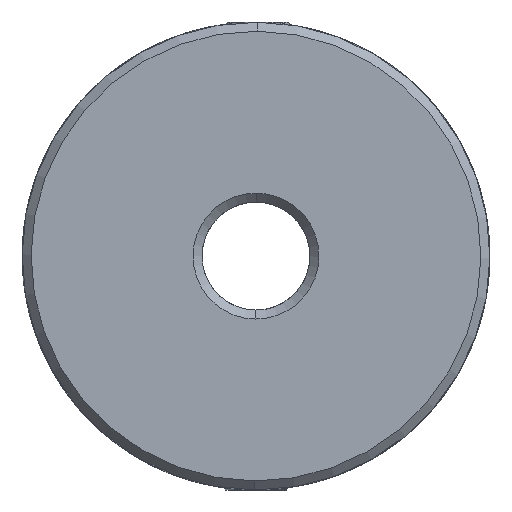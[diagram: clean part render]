
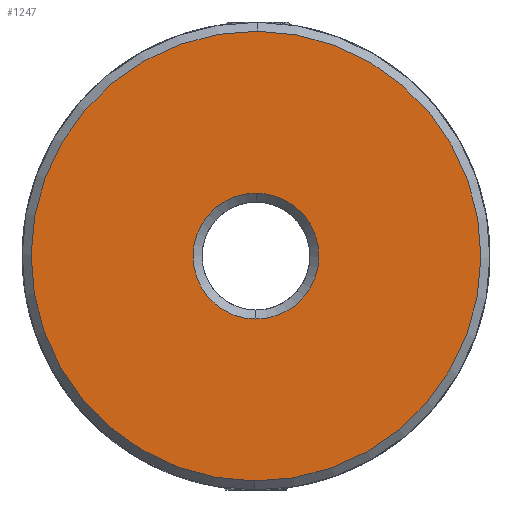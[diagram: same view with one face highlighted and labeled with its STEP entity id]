
A CAD part, front view. The second image highlights one B-rep face of the part: STEP entity #1247.
In plain terms, the highlighted planar face has unit normal (0, -1, 0) as drawn and (0, 1, 0) by its records, which use the part's own axes.
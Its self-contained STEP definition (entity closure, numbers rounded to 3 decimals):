
#40 = AXIS2_PLACEMENT_3D ( 'NONE', #5229, #7734, #6997 ) ;
#52 = CIRCLE ( 'NONE', #4426, 3.5 ) ;
#653 = CARTESIAN_POINT ( 'NONE',  ( 0., 11., 12.5 ) ) ;
#842 = CARTESIAN_POINT ( 'NONE',  ( 0., 11., 0. ) ) ;
#1247 = ADVANCED_FACE ( 'NONE', ( #5559, #7346 ), #1483, .T. ) ;
#1483 = PLANE ( 'NONE',  #3215 ) ;
#1721 = DIRECTION ( 'NONE',  ( 0., 0., 1. ) ) ;
#1869 = CARTESIAN_POINT ( 'NONE',  ( 0., 11., -3.5 ) ) ;
#2323 = CARTESIAN_POINT ( 'NONE',  ( 0., 11., 0. ) ) ;
#2733 = DIRECTION ( 'NONE',  ( 0., 1., 0. ) ) ;
#2813 = EDGE_CURVE ( 'NONE', #9225, #7175, #8337, .T. ) ;
#3215 = AXIS2_PLACEMENT_3D ( 'NONE', #2323, #6571, #7446 ) ;
#4015 = DIRECTION ( 'NONE',  ( 0., -1., 0. ) ) ;
#4426 = AXIS2_PLACEMENT_3D ( 'NONE', #842, #6968, #1721 ) ;
#5034 = VERTEX_POINT ( 'NONE', #6363 ) ;
#5043 = ORIENTED_EDGE ( 'NONE', *, *, #8655, .T. ) ;
#5229 = CARTESIAN_POINT ( 'NONE',  ( 0., 11., 0. ) ) ;
#5559 = FACE_BOUND ( 'NONE', #10858, .T. ) ;
#5766 = VERTEX_POINT ( 'NONE', #1869 ) ;
#6363 = CARTESIAN_POINT ( 'NONE',  ( 0., 11., 3.5 ) ) ;
#6571 = DIRECTION ( 'NONE',  ( 0., 1., 0. ) ) ;
#6687 = CIRCLE ( 'NONE', #7318, 12.5 ) ;
#6847 = CARTESIAN_POINT ( 'NONE',  ( 0., 11., -12.5 ) ) ;
#6968 = DIRECTION ( 'NONE',  ( 0., -1., 0. ) ) ;
#6997 = DIRECTION ( 'NONE',  ( 0., 0., 1. ) ) ;
#7175 = VERTEX_POINT ( 'NONE', #653 ) ;
#7247 = ORIENTED_EDGE ( 'NONE', *, *, #11227, .T. ) ;
#7318 = AXIS2_PLACEMENT_3D ( 'NONE', #8113, #2733, #8888 ) ;
#7346 = FACE_OUTER_BOUND ( 'NONE', #8542, .T. ) ;
#7446 = DIRECTION ( 'NONE',  ( 0., 0., 1. ) ) ;
#7734 = DIRECTION ( 'NONE',  ( 0., 1., 0. ) ) ;
#8023 = CIRCLE ( 'NONE', #9819, 3.5 ) ;
#8113 = CARTESIAN_POINT ( 'NONE',  ( 0., 11., 0. ) ) ;
#8169 = ORIENTED_EDGE ( 'NONE', *, *, #2813, .T. ) ;
#8337 = CIRCLE ( 'NONE', #40, 12.5 ) ;
#8542 = EDGE_LOOP ( 'NONE', ( #8169, #5043 ) ) ;
#8655 = EDGE_CURVE ( 'NONE', #7175, #9225, #6687, .T. ) ;
#8888 = DIRECTION ( 'NONE',  ( 0., 0., 1. ) ) ;
#9225 = VERTEX_POINT ( 'NONE', #6847 ) ;
#9819 = AXIS2_PLACEMENT_3D ( 'NONE', #10928, #4015, #10966 ) ;
#10179 = EDGE_CURVE ( 'NONE', #5766, #5034, #52, .T. ) ;
#10858 = EDGE_LOOP ( 'NONE', ( #7247, #11071 ) ) ;
#10928 = CARTESIAN_POINT ( 'NONE',  ( 0., 11., 0. ) ) ;
#10966 = DIRECTION ( 'NONE',  ( 0., 0., 1. ) ) ;
#11071 = ORIENTED_EDGE ( 'NONE', *, *, #10179, .T. ) ;
#11227 = EDGE_CURVE ( 'NONE', #5034, #5766, #8023, .T. ) ;
